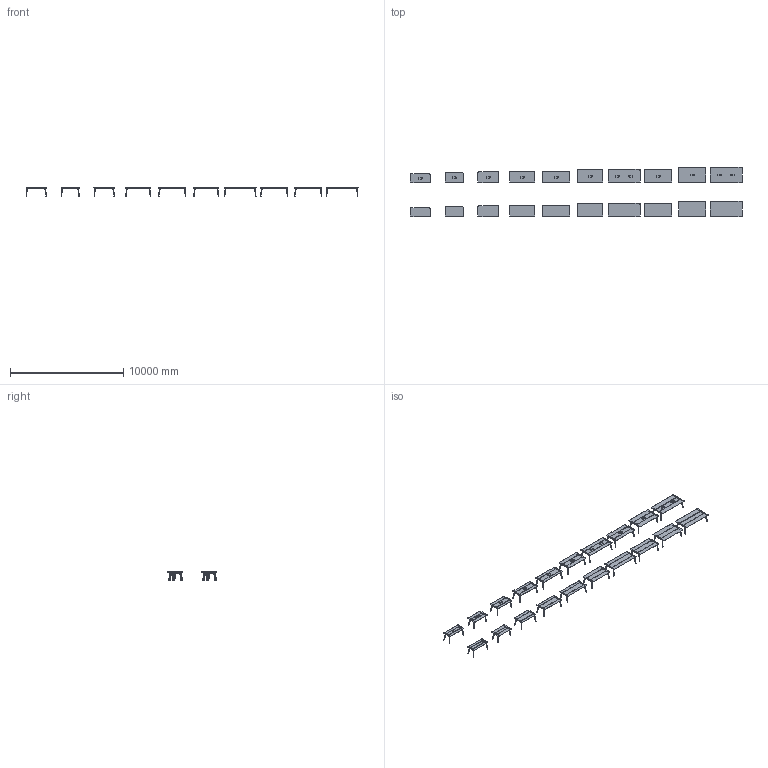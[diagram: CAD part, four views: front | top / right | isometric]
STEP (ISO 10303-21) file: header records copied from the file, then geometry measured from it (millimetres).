
FILE_DESCRIPTION(/* description */ (''),/* implementation_level */ '2;1');
FILE_NAME(/* name */ 'TRUE_E-quo table_3D',/* time_stamp */ '2026-09-25T10:24:27+02:00',/* author */ (''),/* organization */ (''),/* preprocessor_version */ 'ST-DEVELOPER v16.5',/* originating_system */ '',/* authorisation */ '');
FILE_SCHEMA (('CONFIG_CONTROL_DESIGN'));
Products named in the file (12): Document; Gamba 720mm; Piedino regolabile; Trave 1250x296; 40337-trave ferro L.1946mm; GAMBA L.924 E-QUO TABLE; Carter 1250x496; Trave L.2146; Trave 1546mm; 30538_30537-gamba L.920mm; Trave L.2546; Carter 2050x500
Assembly tree (49 placements, depth 3):
  Document
    Gamba 720mm  x4
      Piedino regolabile
    Trave 1250x296  x2
    40337-trave ferro L.1946mm  x4
    GAMBA L.924 E-QUO TABLE  x6
      Piedino regolabile
    Carter 1250x496  x6
    Trave L.2146  x6
    Trave 1546mm  x2
    30538_30537-gamba L.920mm  x10
      Piedino regolabile
    Trave L.2546  x4
    Carter 2050x500  x2
Bounding box: 29300 x 4400 x 735 mm (x, y, z)
Volume: 1280500124 mm3; surface area: 168871931.8 mm2
Topology: 242 solids, 242 shells, 8032 faces, 18336 edges, 11268 vertices
Faces by surface type: plane 2816, bspline 2628, cylinder 2588
Entity records: 210683 total; most frequent: CARTESIAN_POINT 145718, ORIENTED_EDGE 20214, EDGE_CURVE 10107, VERTEX_POINT 6198, EDGE_LOOP 5049, ADVANCED_FACE 4451, FACE_OUTER_BOUND 4451, DIRECTION 3232
